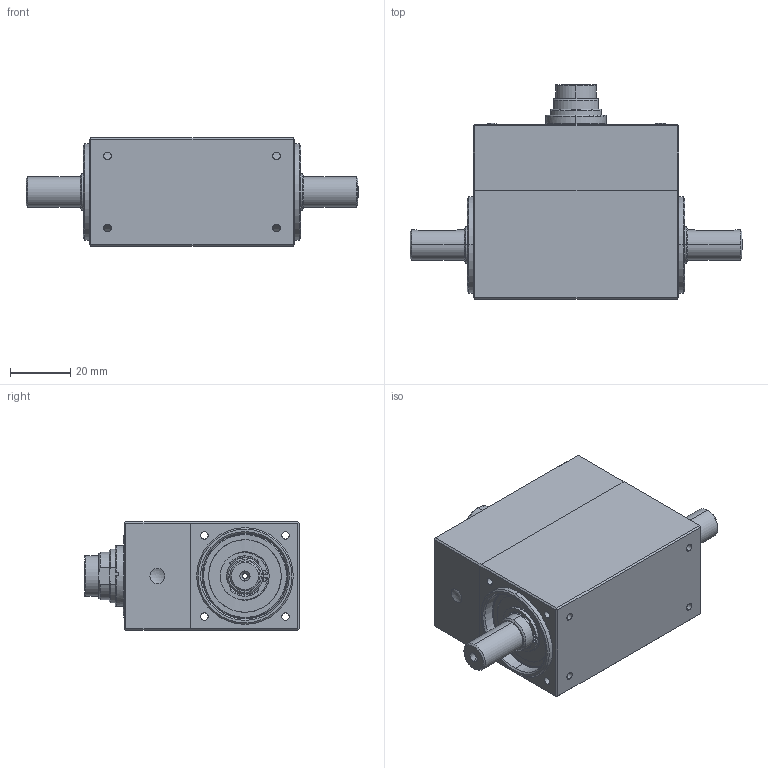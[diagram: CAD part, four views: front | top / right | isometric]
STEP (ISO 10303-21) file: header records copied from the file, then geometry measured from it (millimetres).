
FILE_DESCRIPTION (( 'STEP AP214' ), '1' );
FILE_NAME ('DRVL-Ib mit Passfedernuten.STEP', '2018-04-27T11:15:32', ( 'nsi' ), ( '' ), 'SwSTEP 2.0', 'SolidWorks 2018', '' );
FILE_SCHEMA (( 'AUTOMOTIVE_DESIGN' ));
Length unit declared in the file: millimetre
Products named in the file (1): DRVL-Ib mit Passfedernuten
Bounding box: 110 x 71.1 x 36 mm (x, y, z)
Surface area: 24299.4 mm2 (no closed solid volume)
Topology: 0 solids, 19 shells, 316 faces, 875 edges, 581 vertices
Faces by surface type: cylinder 124, plane 91, cone 54, torus 40, bspline 4, sphere 3
Entity records: 13082 total; most frequent: CARTESIAN_POINT 4140, DIRECTION 1782, ORIENTED_EDGE 1513, EDGE_CURVE 861, AXIS2_PLACEMENT_3D 723, VERTEX_POINT 581, CIRCLE 410, EDGE_LOOP 377
